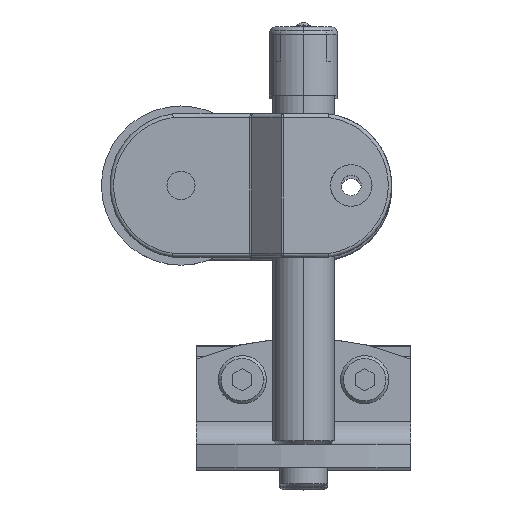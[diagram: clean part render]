
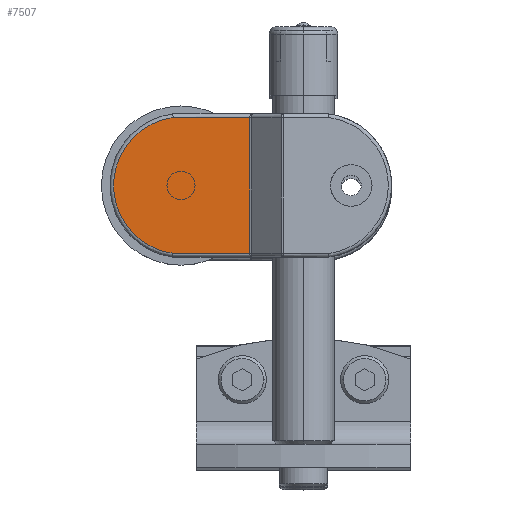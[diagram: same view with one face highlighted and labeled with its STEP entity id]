
A CAD part, top view. The second image highlights one B-rep face of the part: STEP entity #7507.
In plain terms, the highlighted planar face has unit normal (0, 0, 1) as drawn and (1, 0, 0) by its records, which use the part's own axes.
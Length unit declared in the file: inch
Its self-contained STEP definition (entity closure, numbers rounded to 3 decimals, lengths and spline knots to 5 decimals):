
#6415=CARTESIAN_POINT('',(0.155,0.63466,
-0.555));
#6431=DIRECTION('',(0.,1.,0.));
#6432=VECTOR('',#6431,0.62637);
#6433=CARTESIAN_POINT('',(0.155,0.00828,
-0.555));
#6434=LINE('',#6433,#6432);
#6448=CARTESIAN_POINT('',(0.155,0.56,
0.));
#6449=DIRECTION('',(-1.,0.,0.));
#6450=DIRECTION('',(0.,0.133,0.991));
#6451=AXIS2_PLACEMENT_3D('',#6448,#6449,#6450);
#6457=DIRECTION('',(0.,-1.,0.));
#6458=VECTOR('',#6457,0.62637);
#6459=CARTESIAN_POINT('',(0.155,0.63465,
0.555));
#6460=LINE('',#6459,#6458);
#6920=DIRECTION('',(0.,0.,1.));
#6921=VECTOR('',#6920,1.11);
#6922=CARTESIAN_POINT('',(0.155,0.00828,
-0.555));
#6923=LINE('',#6922,#6921);
#7156=VERTEX_POINT('',#6415);
#7157=CARTESIAN_POINT('',(0.155,0.63466,
0.555));
#7158=VERTEX_POINT('',#7157);
#7159=CARTESIAN_POINT('',(0.155,0.00828,
-0.555));
#7160=VERTEX_POINT('',#7159);
#7161=CARTESIAN_POINT('',(0.155,0.00828,
0.555));
#7162=VERTEX_POINT('',#7161);
#7494=CARTESIAN_POINT('',(0.155,0.56414,0.));
#7495=DIRECTION('',(1.,0.,0.));
#7496=DIRECTION('',(0.,0.,-1.));
#7497=AXIS2_PLACEMENT_3D('',#7494,#7495,#7496);
#7498=PLANE('',#7497);
#7500=ORIENTED_EDGE('',*,*,#7499,.F.);
#7501=ORIENTED_EDGE('',*,*,#7472,.T.);
#7502=ORIENTED_EDGE('',*,*,#7485,.F.);
#7504=ORIENTED_EDGE('',*,*,#7503,.T.);
#7505=EDGE_LOOP('',(#7500,#7501,#7502,#7504));
#7506=FACE_OUTER_BOUND('',#7505,.F.);
#6452=CIRCLE('',#6451,0.56);
#7472=EDGE_CURVE('',#7158,#7156,#6452,.T.);
#7485=EDGE_CURVE('',#7160,#7156,#6434,.T.);
#7499=EDGE_CURVE('',#7158,#7162,#6460,.T.);
#7503=EDGE_CURVE('',#7160,#7162,#6923,.T.);
#7507=ADVANCED_FACE('',(#7506),#7498,.T.);
